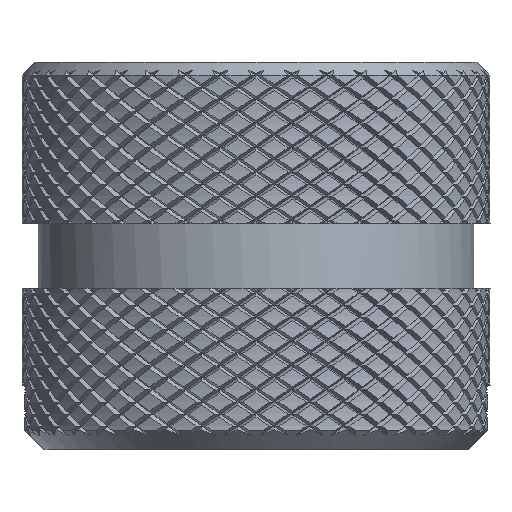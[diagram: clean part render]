
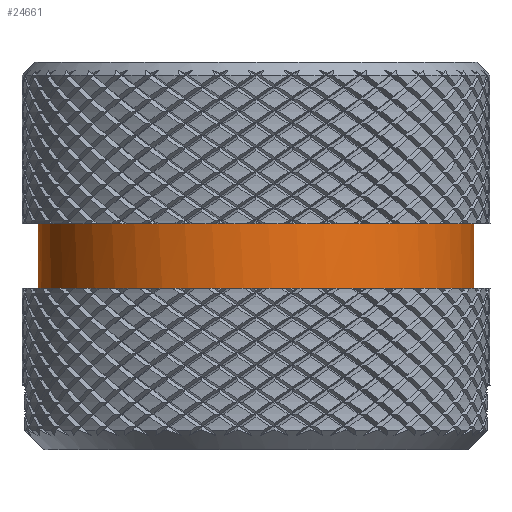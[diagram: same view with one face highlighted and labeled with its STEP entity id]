
A CAD part, left-side view. The second image highlights one B-rep face of the part: STEP entity #24661.
In plain terms, the highlighted cylindrical face has radius 6.75 mm (diameter 13.5 mm), a partial arc.
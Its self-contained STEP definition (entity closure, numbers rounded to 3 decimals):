
#2424 = DIRECTION ( 'NONE',  ( 0., 0., -1. ) ) ;
#4890 = CARTESIAN_POINT ( 'NONE',  ( -5.898, -3.399, -7. ) ) ;
#12494 = CARTESIAN_POINT ( 'NONE',  ( 0., -6.75, -7. ) ) ;
#12727 = EDGE_CURVE ( 'NONE', #94697, #103261, #102446, .T. ) ;
#18118 = ORIENTED_EDGE ( 'NONE', *, *, #212276, .T. ) ;
#22604 = CARTESIAN_POINT ( 'NONE',  ( -6.75, -0.884, -7. ) ) ;
#23044 = B_SPLINE_CURVE_WITH_KNOTS ( 'NONE', 3,
 ( #188855, #148806, #220770, #59147, #131148, #29528, #211205, #100356, #210046, #226568, #122744, #194664, #208894, #172291, #193510, #212364, #139245, #47244 ),
 .UNSPECIFIED., .F., .F.,
 ( 4, 2, 2, 2, 2, 2, 2, 2, 4 ),
 ( 0., 0.125, 0.25, 0.375, 0.5, 0.625, 0.75, 0.875, 1. ),
 .UNSPECIFIED. ) ;
#23768 = CARTESIAN_POINT ( 'NONE',  ( -6.75, 0.884, -7. ) ) ;
#24557 = LINE ( 'NONE', #189679, #163265 ) ;
#24661 = ADVANCED_FACE ( 'NONE', ( #232564 ), #132185, .T. ) ;
#25694 = DIRECTION ( 'NONE',  ( 0., 0., 1. ) ) ;
#29528 = CARTESIAN_POINT ( 'NONE',  ( -5.398, -4.148, -5. ) ) ;
#40339 = CARTESIAN_POINT ( 'NONE',  ( -0.884, 6.75, -7. ) ) ;
#47244 = CARTESIAN_POINT ( 'NONE',  ( 0., 6.75, -5. ) ) ;
#59147 = CARTESIAN_POINT ( 'NONE',  ( -3.399, -5.898, -5. ) ) ;
#59178 = CARTESIAN_POINT ( 'NONE',  ( -0.884, -6.75, -7. ) ) ;
#60320 = CARTESIAN_POINT ( 'NONE',  ( -1.767, -6.574, -7. ) ) ;
#73318 = CARTESIAN_POINT ( 'NONE',  ( 0., 6.75, -5. ) ) ;
#76890 = CARTESIAN_POINT ( 'NONE',  ( -5.398, -4.148, -7. ) ) ;
#87534 = ORIENTED_EDGE ( 'NONE', *, *, #194642, .T. ) ;
#92151 = DIRECTION ( 'NONE',  ( -1., 0., 0. ) ) ;
#93431 = CARTESIAN_POINT ( 'NONE',  ( -6.574, 1.767, -7. ) ) ;
#94697 = VERTEX_POINT ( 'NONE', #73318 ) ;
#100356 = CARTESIAN_POINT ( 'NONE',  ( -6.574, -1.767, -5. ) ) ;
#102446 = LINE ( 'NONE', #189794, #204787 ) ;
#103261 = VERTEX_POINT ( 'NONE', #195765 ) ;
#104773 = DIRECTION ( 'NONE',  ( 0., 0., -1. ) ) ;
#111143 = CARTESIAN_POINT ( 'NONE',  ( -5.398, 4.148, -7. ) ) ;
#112293 = CARTESIAN_POINT ( 'NONE',  ( -4.148, 5.398, -7. ) ) ;
#118399 = B_SPLINE_CURVE_WITH_KNOTS ( 'NONE', 3,
 ( #183092, #40339, #130040, #132335, #112293, #111143, #147661, #93431, #23768, #22604, #151139, #4890, #76890, #148834, #220804, #60320, #59178, #203107 ),
 .UNSPECIFIED., .F., .F.,
 ( 4, 2, 2, 2, 2, 2, 2, 2, 4 ),
 ( 0., 0.125, 0.25, 0.375, 0.5, 0.625, 0.75, 0.875, 1. ),
 .UNSPECIFIED. ) ;
#122744 = CARTESIAN_POINT ( 'NONE',  ( -6.574, 1.767, -5. ) ) ;
#130040 = CARTESIAN_POINT ( 'NONE',  ( -1.767, 6.574, -7. ) ) ;
#131148 = CARTESIAN_POINT ( 'NONE',  ( -4.148, -5.398, -5. ) ) ;
#132185 = CYLINDRICAL_SURFACE ( 'NONE', #207343, 6.75 ) ;
#132335 = CARTESIAN_POINT ( 'NONE',  ( -3.399, 5.898, -7. ) ) ;
#137741 = VERTEX_POINT ( 'NONE', #196535 ) ;
#139245 = CARTESIAN_POINT ( 'NONE',  ( -0.884, 6.75, -5. ) ) ;
#147661 = CARTESIAN_POINT ( 'NONE',  ( -5.898, 3.399, -7. ) ) ;
#148806 = CARTESIAN_POINT ( 'NONE',  ( -0.884, -6.75, -5. ) ) ;
#148834 = CARTESIAN_POINT ( 'NONE',  ( -4.148, -5.398, -7. ) ) ;
#150225 = EDGE_CURVE ( 'NONE', #137741, #94697, #23044, .T. ) ;
#151139 = CARTESIAN_POINT ( 'NONE',  ( -6.574, -1.767, -7. ) ) ;
#163265 = VECTOR ( 'NONE', #25694, 1000. ) ;
#172291 = CARTESIAN_POINT ( 'NONE',  ( -4.148, 5.398, -5. ) ) ;
#183092 = CARTESIAN_POINT ( 'NONE',  ( 0., 6.75, -7. ) ) ;
#188855 = CARTESIAN_POINT ( 'NONE',  ( 0., -6.75, -5. ) ) ;
#189679 = CARTESIAN_POINT ( 'NONE',  ( 0., -6.75, -4.96 ) ) ;
#189794 = CARTESIAN_POINT ( 'NONE',  ( 0., 6.75, -4.96 ) ) ;
#193510 = CARTESIAN_POINT ( 'NONE',  ( -3.399, 5.898, -5. ) ) ;
#194642 = EDGE_CURVE ( 'NONE', #225338, #137741, #24557, .T. ) ;
#194664 = CARTESIAN_POINT ( 'NONE',  ( -5.898, 3.399, -5. ) ) ;
#195765 = CARTESIAN_POINT ( 'NONE',  ( 0., 6.75, -7. ) ) ;
#196535 = CARTESIAN_POINT ( 'NONE',  ( 0., -6.75, -5. ) ) ;
#203107 = CARTESIAN_POINT ( 'NONE',  ( 0., -6.75, -7. ) ) ;
#204119 = CARTESIAN_POINT ( 'NONE',  ( 0., 0., -4.96 ) ) ;
#204787 = VECTOR ( 'NONE', #104773, 1000. ) ;
#207343 = AXIS2_PLACEMENT_3D ( 'NONE', #204119, #2424, #92151 ) ;
#208894 = CARTESIAN_POINT ( 'NONE',  ( -5.398, 4.148, -5. ) ) ;
#210046 = CARTESIAN_POINT ( 'NONE',  ( -6.75, -0.884, -5. ) ) ;
#211205 = CARTESIAN_POINT ( 'NONE',  ( -5.898, -3.399, -5. ) ) ;
#212276 = EDGE_CURVE ( 'NONE', #103261, #225338, #118399, .T. ) ;
#212364 = CARTESIAN_POINT ( 'NONE',  ( -1.767, 6.574, -5. ) ) ;
#215578 = EDGE_LOOP ( 'NONE', ( #232196, #219850, #18118, #87534 ) ) ;
#219850 = ORIENTED_EDGE ( 'NONE', *, *, #12727, .T. ) ;
#220770 = CARTESIAN_POINT ( 'NONE',  ( -1.767, -6.574, -5. ) ) ;
#220804 = CARTESIAN_POINT ( 'NONE',  ( -3.399, -5.898, -7. ) ) ;
#225338 = VERTEX_POINT ( 'NONE', #12494 ) ;
#226568 = CARTESIAN_POINT ( 'NONE',  ( -6.75, 0.884, -5. ) ) ;
#232196 = ORIENTED_EDGE ( 'NONE', *, *, #150225, .T. ) ;
#232564 = FACE_OUTER_BOUND ( 'NONE', #215578, .T. ) ;
